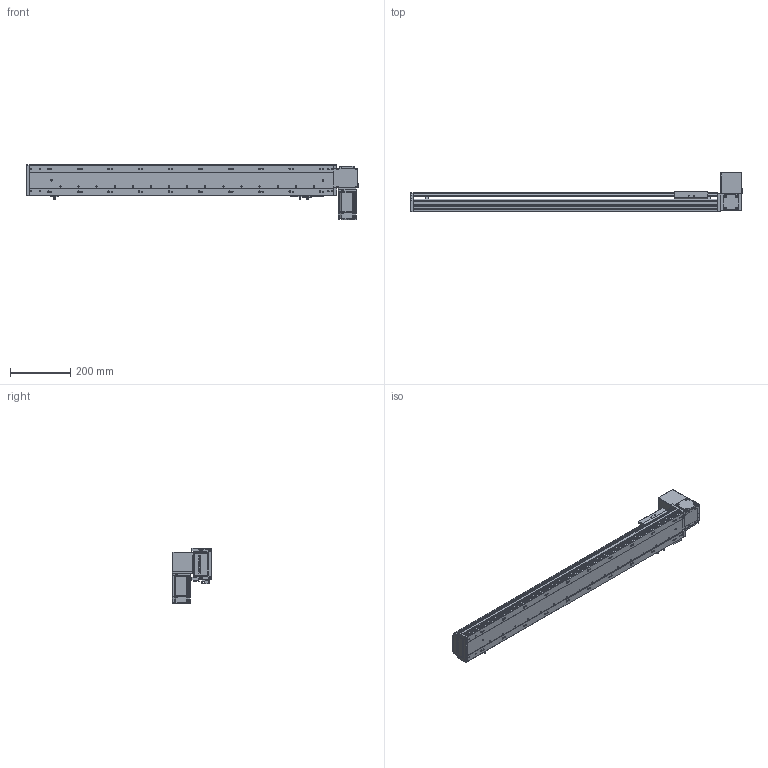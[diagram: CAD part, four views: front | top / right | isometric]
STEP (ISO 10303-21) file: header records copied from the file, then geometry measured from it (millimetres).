
FILE_DESCRIPTION (( 'STEP AP203' ), '1' );
FILE_NAME ('RY100-T-300-UL.SLDASM_800.step', '2024-04-25T08:39:45', ( '盈信电脑' ), ( '东莞市道滘镇水果街19号' ), 'SwSTEP 2.0', 'SolidWorks 2016', '' );
FILE_SCHEMA (( 'CONFIG_CONTROL_DESIGN' ));
Length unit declared in the file: millimetre
Products named in the file (15): 滅袉蝶18-10; RY80-T肮祭謫奻殏俋欶; RY100-T左右折电机安装板; RY100-T翋肮祭謫裔啣2; RY100俋离覜茼え; RY100-T翋肮祭謫裔啣; RY100-T肮祭謫翋盓傅釱; 覜茼ん672; RY100綴裔啣; RY100-T粣創揤踡裔; RY100-T-300-RK倰第奻裔_800; RY100-T-300-UL.SLDASM_800; RY100-T肮祭謫臏賑輸; RY100-T-300-RK倰第菁釱_800; 1
Assembly tree (17 placements, depth 2):
  RY100-T-300-UL.SLDASM_800
    RY100-T-300-RK倰第菁釱_800
    RY100-T-300-RK倰第奻裔_800
    RY100-T肮祭謫臏賑輸
    RY100綴裔啣
    覜茼ん672  x3
    RY100俋离覜茼え
    RY100-T肮祭謫翋盓傅釱
    滅袉蝶18-10  x2
    RY100-T翋肮祭謫裔啣2
    RY100-T翋肮祭謫裔啣
    1
    RY100-T左右折电机安装板
    RY80-T肮祭謫奻殏俋欶
    RY100-T粣創揤踡裔
Bounding box: 1100 x 130.5 x 182.5 mm (x, y, z)
Volume: 2303123 mm3; surface area: 941372.9 mm2
Topology: 17 solids, 17 shells, 2259 faces, 6304 edges, 4096 vertices
Faces by surface type: plane 1215, cylinder 829, cone 137, bspline 78
Entity records: 73306 total; most frequent: CARTESIAN_POINT 17911, ORIENTED_EDGE 11440, DIRECTION 10854, EDGE_CURVE 5720, VERTEX_POINT 3764, VECTOR 3662, LINE 3662, AXIS2_PLACEMENT_3D 3596
